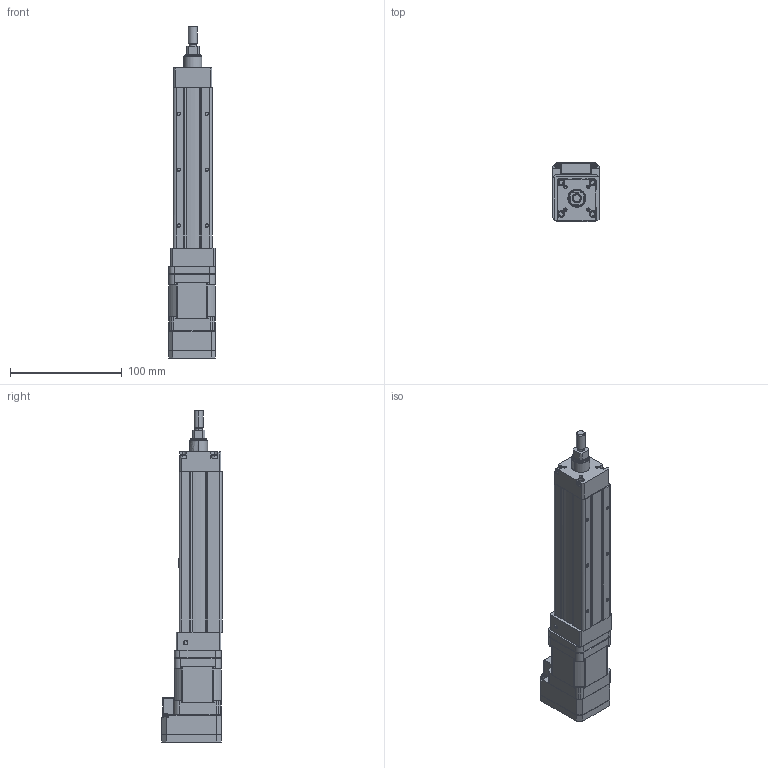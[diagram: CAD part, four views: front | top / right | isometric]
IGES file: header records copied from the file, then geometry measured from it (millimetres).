
Start section: SolidWorks IGES file using analytic representation for surfaces
Global section: file name: \\MYODRIVE\Public\CAD Files\Integrated-Actuators\RD-Series\RD-35T\RD-35-12-050-17L30.IGS; native system: SolidWorks 2015; preprocessor: SolidWorks 2015; author: RENDER; date: 150108.112404; units: millimetre
Bounding box: 42 x 53.76 x 296.8 mm (x, y, z)
Surface area: 69580.1 mm2 (no closed solid volume)
Topology: 0 solids, 0 shells, 1185 faces, 11602 edges, 11582 vertices
Faces by surface type: bspline 754, revolution 431
